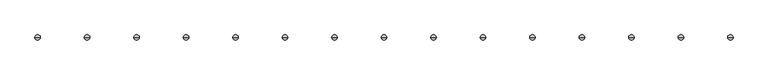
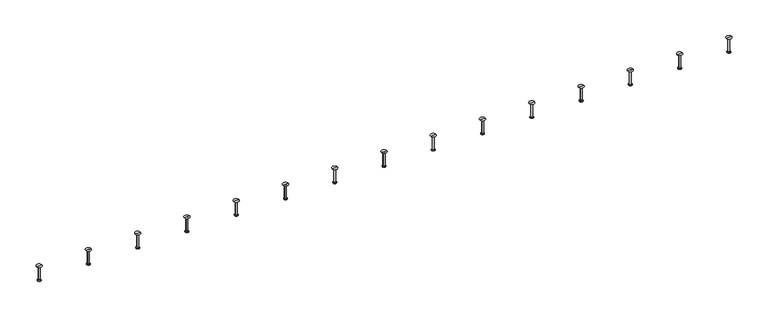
"""IFC4 building model written with IfcOpenShell, lengths in millimetres: fastener geometry, JTA-W JORDAHL® AnchorChannels : JTA-W L=6000 mm."""

from ifc_helpers import new_model, si_unit, frame, origin, place, context, project, spatial, polyline, circle_curve, source, transform, mapped, element, save
from ifc_brep_helpers import plane_surface, cylinder_surface, revolved_surface, advanced_brep


def fastener_dd962dd3(model_context):
    return source(origin(), model_context, "Body", "AdvancedBrep", [
        advanced_brep(
        [(3991.6666667, 0.0, -22.0), (4005.1666667, 0.0, -22.0), (3978.1666667, 0.0, -22.0), (3983.1666667, 0.0, -100.0), (4000.1666667, 0.0, -100.0), (3991.6666667, 0.0, -100.0), (3983.1666667, 0.0, -98.0), (4000.1666667, 0.0, -98.0), (3987.1666667, 0.0, -95.6905989), (3996.1666667, 0.0, -95.6905989), (3987.1666667, 0.0, -24.5), (3996.1666667, 0.0, -24.5)],
        [
            (0, 1),
            (1, 2, circle_curve(frame((3991.6666667, 0.0, -22.0), z_axis=(0.0, 0.0, 1.0), x_axis=(1.0, 0.0, 0.0)), 13.5)),
            (2, 0),
            (2, 1, circle_curve(frame((3991.6666667, 0.0, -22.0), z_axis=(0.0, 0.0, 1.0), x_axis=(1.0, 0.0, 0.0)), 13.5)),
            (3, 4, circle_curve(frame((3991.6666667, 0.0, -100.0), z_axis=(0.0, 0.0, -1.0), x_axis=(1.0, 0.0, 0.0)), 8.5)),
            (4, 5),
            (5, 3),
            (4, 3, circle_curve(frame((3991.6666667, 0.0, -100.0), z_axis=(0.0, 0.0, -1.0), x_axis=(1.0, 0.0, 0.0)), 8.5)),
            (6, 7, circle_curve(frame((3991.6666667, 0.0, -98.0), z_axis=(0.0, 0.0, -1.0), x_axis=(1.0, 0.0, 0.0)), 8.5)),
            (7, 4),
            (3, 6),
            (7, 6, circle_curve(frame((3991.6666667, 0.0, -98.0), z_axis=(0.0, 0.0, -1.0), x_axis=(1.0, 0.0, 0.0)), 8.5)),
            (8, 9, circle_curve(frame((3991.6666667, 0.0, -95.6905989), z_axis=(0.0, 0.0, -1.0), x_axis=(1.0, 0.0, 0.0)), 4.5)),
            (9, 7),
            (6, 8),
            (9, 8, circle_curve(frame((3991.6666667, 0.0, -95.6905989), z_axis=(0.0, 0.0, -1.0), x_axis=(1.0, 0.0, 0.0)), 4.5)),
            (10, 11, circle_curve(frame((3991.6666667, 0.0, -24.5), z_axis=(0.0, 0.0, -1.0), x_axis=(1.0, 0.0, 0.0)), 4.5)),
            (11, 9),
            (8, 10),
            (11, 10, circle_curve(frame((3991.6666667, 0.0, -24.5), z_axis=(0.0, 0.0, -1.0), x_axis=(1.0, 0.0, 0.0)), 4.5)),
            (1, 11),
            (10, 2),
        ],
        [
            plane_surface(frame((3991.6666667, 0.0, -22.0), z_axis=(0.0, 0.0, 1.0), x_axis=(1.0, 0.0, 0.0))),
            plane_surface(frame((3991.6666667, 0.0, -100.0), z_axis=(0.0, 0.0, -1.0), x_axis=(1.0, 0.0, 0.0))),
            cylinder_surface(frame((3991.6666667, 0.0, 2292.3150031), z_axis=(0.0, 0.0, 1.0), x_axis=(1.0, 0.0, 0.0)), 8.5),
            revolved_surface(polyline([(4000.1666667, 0.0, -98.0), (3996.1666667, 0.0, -95.6905989)]), (3991.6666667, 0.0, 2292.3150031), (0.0, 0.0, 1.0)),
            cylinder_surface(frame((3991.6666667, 0.0, 2292.3150031), z_axis=(0.0, 0.0, 1.0), x_axis=(1.0, 0.0, 0.0)), 4.5),
            revolved_surface(polyline([(3996.1666667, 0.0, -24.5), (4005.1666667, 0.0, -22.0)]), (3991.6666667, 0.0, 2292.3150031), (0.0, 0.0, 1.0)),
        ],
        [
            (0, [[1, 2, 3]]),
            (0, [[-3, 4, -1]]),
            (1, [[5, 6, 7]]),
            (1, [[8, -7, -6]]),
            (2, [[9, 10, -5, 11]]),
            (2, [[12, -11, -8, -10]]),
            (3, [[13, 14, -9, 15]]),
            (3, [[16, -15, -12, -14]]),
            (4, [[17, 18, -13, 19]]),
            (4, [[20, -19, -16, -18]]),
            (5, [[-2, 21, -17, 22]]),
            (5, [[-4, -22, -20, -21]]),
        ],
    ),
        advanced_brep(
        [(3743.75, 0.0, -22.0), (3757.25, 0.0, -22.0), (3730.25, 0.0, -22.0), (3735.25, 0.0, -100.0), (3752.25, 0.0, -100.0), (3743.75, 0.0, -100.0), (3735.25, 0.0, -98.0), (3752.25, 0.0, -98.0), (3739.25, 0.0, -95.6905989), (3748.25, 0.0, -95.6905989), (3739.25, 0.0, -24.5), (3748.25, 0.0, -24.5)],
        [
            (0, 1),
            (1, 2, circle_curve(frame((3743.75, 0.0, -22.0), z_axis=(0.0, 0.0, 1.0), x_axis=(1.0, 0.0, 0.0)), 13.5)),
            (2, 0),
            (2, 1, circle_curve(frame((3743.75, 0.0, -22.0), z_axis=(0.0, 0.0, 1.0), x_axis=(1.0, 0.0, 0.0)), 13.5)),
            (3, 4, circle_curve(frame((3743.75, 0.0, -100.0), z_axis=(0.0, 0.0, -1.0), x_axis=(1.0, 0.0, 0.0)), 8.5)),
            (4, 5),
            (5, 3),
            (4, 3, circle_curve(frame((3743.75, 0.0, -100.0), z_axis=(0.0, 0.0, -1.0), x_axis=(1.0, 0.0, 0.0)), 8.5)),
            (6, 7, circle_curve(frame((3743.75, 0.0, -98.0), z_axis=(0.0, 0.0, -1.0), x_axis=(1.0, 0.0, 0.0)), 8.5)),
            (7, 4),
            (3, 6),
            (7, 6, circle_curve(frame((3743.75, 0.0, -98.0), z_axis=(0.0, 0.0, -1.0), x_axis=(1.0, 0.0, 0.0)), 8.5)),
            (8, 9, circle_curve(frame((3743.75, 0.0, -95.6905989), z_axis=(0.0, 0.0, -1.0), x_axis=(1.0, 0.0, 0.0)), 4.5)),
            (9, 7),
            (6, 8),
            (9, 8, circle_curve(frame((3743.75, 0.0, -95.6905989), z_axis=(0.0, 0.0, -1.0), x_axis=(1.0, 0.0, 0.0)), 4.5)),
            (10, 11, circle_curve(frame((3743.75, 0.0, -24.5), z_axis=(0.0, 0.0, -1.0), x_axis=(1.0, 0.0, 0.0)), 4.5)),
            (11, 9),
            (8, 10),
            (11, 10, circle_curve(frame((3743.75, 0.0, -24.5), z_axis=(0.0, 0.0, -1.0), x_axis=(1.0, 0.0, 0.0)), 4.5)),
            (1, 11),
            (10, 2),
        ],
        [
            plane_surface(frame((3743.75, 0.0, -22.0), z_axis=(0.0, 0.0, 1.0), x_axis=(1.0, 0.0, 0.0))),
            plane_surface(frame((3743.75, 0.0, -100.0), z_axis=(0.0, 0.0, -1.0), x_axis=(1.0, 0.0, 0.0))),
            cylinder_surface(frame((3743.75, 0.0, 2292.3150031), z_axis=(0.0, 0.0, 1.0), x_axis=(1.0, 0.0, 0.0)), 8.5),
            revolved_surface(polyline([(3752.25, 0.0, -98.0), (3748.25, 0.0, -95.6905989)]), (3743.75, 0.0, 2292.3150031), (0.0, 0.0, 1.0)),
            cylinder_surface(frame((3743.75, 0.0, 2292.3150031), z_axis=(0.0, 0.0, 1.0), x_axis=(1.0, 0.0, 0.0)), 4.5),
            revolved_surface(polyline([(3748.25, 0.0, -24.5), (3757.25, 0.0, -22.0)]), (3743.75, 0.0, 2292.3150031), (0.0, 0.0, 1.0)),
        ],
        [
            (0, [[1, 2, 3]]),
            (0, [[-3, 4, -1]]),
            (1, [[5, 6, 7]]),
            (1, [[8, -7, -6]]),
            (2, [[9, 10, -5, 11]]),
            (2, [[12, -11, -8, -10]]),
            (3, [[13, 14, -9, 15]]),
            (3, [[16, -15, -12, -14]]),
            (4, [[17, 18, -13, 19]]),
            (4, [[20, -19, -16, -18]]),
            (5, [[-2, 21, -17, 22]]),
            (5, [[-4, -22, -20, -21]]),
        ],
    ),
        advanced_brep(
        [(3495.8333333, 0.0, -22.0), (3509.3333333, 0.0, -22.0), (3482.3333333, 0.0, -22.0), (3487.3333333, 0.0, -100.0), (3504.3333333, 0.0, -100.0), (3495.8333333, 0.0, -100.0), (3487.3333333, 0.0, -98.0), (3504.3333333, 0.0, -98.0), (3491.3333333, 0.0, -95.6905989), (3500.3333333, 0.0, -95.6905989), (3491.3333333, 0.0, -24.5), (3500.3333333, 0.0, -24.5)],
        [
            (0, 1),
            (1, 2, circle_curve(frame((3495.8333333, 0.0, -22.0), z_axis=(0.0, 0.0, 1.0), x_axis=(1.0, 0.0, 0.0)), 13.5)),
            (2, 0),
            (2, 1, circle_curve(frame((3495.8333333, 0.0, -22.0), z_axis=(0.0, 0.0, 1.0), x_axis=(1.0, 0.0, 0.0)), 13.5)),
            (3, 4, circle_curve(frame((3495.8333333, 0.0, -100.0), z_axis=(0.0, 0.0, -1.0), x_axis=(1.0, 0.0, 0.0)), 8.5)),
            (4, 5),
            (5, 3),
            (4, 3, circle_curve(frame((3495.8333333, 0.0, -100.0), z_axis=(0.0, 0.0, -1.0), x_axis=(1.0, 0.0, 0.0)), 8.5)),
            (6, 7, circle_curve(frame((3495.8333333, 0.0, -98.0), z_axis=(0.0, 0.0, -1.0), x_axis=(1.0, 0.0, 0.0)), 8.5)),
            (7, 4),
            (3, 6),
            (7, 6, circle_curve(frame((3495.8333333, 0.0, -98.0), z_axis=(0.0, 0.0, -1.0), x_axis=(1.0, 0.0, 0.0)), 8.5)),
            (8, 9, circle_curve(frame((3495.8333333, 0.0, -95.6905989), z_axis=(0.0, 0.0, -1.0), x_axis=(1.0, 0.0, 0.0)), 4.5)),
            (9, 7),
            (6, 8),
            (9, 8, circle_curve(frame((3495.8333333, 0.0, -95.6905989), z_axis=(0.0, 0.0, -1.0), x_axis=(1.0, 0.0, 0.0)), 4.5)),
            (10, 11, circle_curve(frame((3495.8333333, 0.0, -24.5), z_axis=(0.0, 0.0, -1.0), x_axis=(1.0, 0.0, 0.0)), 4.5)),
            (11, 9),
            (8, 10),
            (11, 10, circle_curve(frame((3495.8333333, 0.0, -24.5), z_axis=(0.0, 0.0, -1.0), x_axis=(1.0, 0.0, 0.0)), 4.5)),
            (1, 11),
            (10, 2),
        ],
        [
            plane_surface(frame((3495.8333333, 0.0, -22.0), z_axis=(0.0, 0.0, 1.0), x_axis=(1.0, 0.0, 0.0))),
            plane_surface(frame((3495.8333333, 0.0, -100.0), z_axis=(0.0, 0.0, -1.0), x_axis=(1.0, 0.0, 0.0))),
            cylinder_surface(frame((3495.8333333, 0.0, 2292.3150031), z_axis=(0.0, 0.0, 1.0), x_axis=(1.0, 0.0, 0.0)), 8.5),
            revolved_surface(polyline([(3504.3333333, 0.0, -98.0), (3500.3333333, 0.0, -95.6905989)]), (3495.8333333, 0.0, 2292.3150031), (0.0, 0.0, 1.0)),
            cylinder_surface(frame((3495.8333333, 0.0, 2292.3150031), z_axis=(0.0, 0.0, 1.0), x_axis=(1.0, 0.0, 0.0)), 4.5),
            revolved_surface(polyline([(3500.3333333, 0.0, -24.5), (3509.3333333, 0.0, -22.0)]), (3495.8333333, 0.0, 2292.3150031), (0.0, 0.0, 1.0)),
        ],
        [
            (0, [[1, 2, 3]]),
            (0, [[-3, 4, -1]]),
            (1, [[5, 6, 7]]),
            (1, [[8, -7, -6]]),
            (2, [[9, 10, -5, 11]]),
            (2, [[12, -11, -8, -10]]),
            (3, [[13, 14, -9, 15]]),
            (3, [[16, -15, -12, -14]]),
            (4, [[17, 18, -13, 19]]),
            (4, [[20, -19, -16, -18]]),
            (5, [[-2, 21, -17, 22]]),
            (5, [[-4, -22, -20, -21]]),
        ],
    ),
        advanced_brep(
        [(3247.9166667, 0.0, -22.0), (3261.4166667, 0.0, -22.0), (3234.4166667, 0.0, -22.0), (3239.4166667, 0.0, -100.0), (3256.4166667, 0.0, -100.0), (3247.9166667, 0.0, -100.0), (3239.4166667, 0.0, -98.0), (3256.4166667, 0.0, -98.0), (3243.4166667, 0.0, -95.6905989), (3252.4166667, 0.0, -95.6905989), (3243.4166667, 0.0, -24.5), (3252.4166667, 0.0, -24.5)],
        [
            (0, 1),
            (1, 2, circle_curve(frame((3247.9166667, 0.0, -22.0), z_axis=(0.0, 0.0, 1.0), x_axis=(1.0, 0.0, 0.0)), 13.5)),
            (2, 0),
            (2, 1, circle_curve(frame((3247.9166667, 0.0, -22.0), z_axis=(0.0, 0.0, 1.0), x_axis=(1.0, 0.0, 0.0)), 13.5)),
            (3, 4, circle_curve(frame((3247.9166667, 0.0, -100.0), z_axis=(0.0, 0.0, -1.0), x_axis=(1.0, 0.0, 0.0)), 8.5)),
            (4, 5),
            (5, 3),
            (4, 3, circle_curve(frame((3247.9166667, 0.0, -100.0), z_axis=(0.0, 0.0, -1.0), x_axis=(1.0, 0.0, 0.0)), 8.5)),
            (6, 7, circle_curve(frame((3247.9166667, 0.0, -98.0), z_axis=(0.0, 0.0, -1.0), x_axis=(1.0, 0.0, 0.0)), 8.5)),
            (7, 4),
            (3, 6),
            (7, 6, circle_curve(frame((3247.9166667, 0.0, -98.0), z_axis=(0.0, 0.0, -1.0), x_axis=(1.0, 0.0, 0.0)), 8.5)),
            (8, 9, circle_curve(frame((3247.9166667, 0.0, -95.6905989), z_axis=(0.0, 0.0, -1.0), x_axis=(1.0, 0.0, 0.0)), 4.5)),
            (9, 7),
            (6, 8),
            (9, 8, circle_curve(frame((3247.9166667, 0.0, -95.6905989), z_axis=(0.0, 0.0, -1.0), x_axis=(1.0, 0.0, 0.0)), 4.5)),
            (10, 11, circle_curve(frame((3247.9166667, 0.0, -24.5), z_axis=(0.0, 0.0, -1.0), x_axis=(1.0, 0.0, 0.0)), 4.5)),
            (11, 9),
            (8, 10),
            (11, 10, circle_curve(frame((3247.9166667, 0.0, -24.5), z_axis=(0.0, 0.0, -1.0), x_axis=(1.0, 0.0, 0.0)), 4.5)),
            (1, 11),
            (10, 2),
        ],
        [
            plane_surface(frame((3247.9166667, 0.0, -22.0), z_axis=(0.0, 0.0, 1.0), x_axis=(1.0, 0.0, 0.0))),
            plane_surface(frame((3247.9166667, 0.0, -100.0), z_axis=(0.0, 0.0, -1.0), x_axis=(1.0, 0.0, 0.0))),
            cylinder_surface(frame((3247.9166667, 0.0, 2292.3150031), z_axis=(0.0, 0.0, 1.0), x_axis=(1.0, 0.0, 0.0)), 8.5),
            revolved_surface(polyline([(3256.4166667, 0.0, -98.0), (3252.4166667, 0.0, -95.6905989)]), (3247.9166667, 0.0, 2292.3150031), (0.0, 0.0, 1.0)),
            cylinder_surface(frame((3247.9166667, 0.0, 2292.3150031), z_axis=(0.0, 0.0, 1.0), x_axis=(1.0, 0.0, 0.0)), 4.5),
            revolved_surface(polyline([(3252.4166667, 0.0, -24.5), (3261.4166667, 0.0, -22.0)]), (3247.9166667, 0.0, 2292.3150031), (0.0, 0.0, 1.0)),
        ],
        [
            (0, [[1, 2, 3]]),
            (0, [[-3, 4, -1]]),
            (1, [[5, 6, 7]]),
            (1, [[8, -7, -6]]),
            (2, [[9, 10, -5, 11]]),
            (2, [[12, -11, -8, -10]]),
            (3, [[13, 14, -9, 15]]),
            (3, [[16, -15, -12, -14]]),
            (4, [[17, 18, -13, 19]]),
            (4, [[20, -19, -16, -18]]),
            (5, [[-2, 21, -17, 22]]),
            (5, [[-4, -22, -20, -21]]),
        ],
    ),
        advanced_brep(
        [(3000.0, 0.0, -22.0), (3013.5, 0.0, -22.0), (2986.5, 0.0, -22.0), (2991.5, 0.0, -100.0), (3008.5, 0.0, -100.0), (3000.0, 0.0, -100.0), (2991.5, 0.0, -98.0), (3008.5, 0.0, -98.0), (2995.5, 0.0, -95.6905989), (3004.5, 0.0, -95.6905989), (2995.5, 0.0, -24.5), (3004.5, 0.0, -24.5)],
        [
            (0, 1),
            (1, 2, circle_curve(frame((3000.0, 0.0, -22.0), z_axis=(0.0, 0.0, 1.0), x_axis=(1.0, 0.0, 0.0)), 13.5)),
            (2, 0),
            (2, 1, circle_curve(frame((3000.0, 0.0, -22.0), z_axis=(0.0, 0.0, 1.0), x_axis=(1.0, 0.0, 0.0)), 13.5)),
            (3, 4, circle_curve(frame((3000.0, 0.0, -100.0), z_axis=(0.0, 0.0, -1.0), x_axis=(1.0, 0.0, 0.0)), 8.5)),
            (4, 5),
            (5, 3),
            (4, 3, circle_curve(frame((3000.0, 0.0, -100.0), z_axis=(0.0, 0.0, -1.0), x_axis=(1.0, 0.0, 0.0)), 8.5)),
            (6, 7, circle_curve(frame((3000.0, 0.0, -98.0), z_axis=(0.0, 0.0, -1.0), x_axis=(1.0, 0.0, 0.0)), 8.5)),
            (7, 4),
            (3, 6),
            (7, 6, circle_curve(frame((3000.0, 0.0, -98.0), z_axis=(0.0, 0.0, -1.0), x_axis=(1.0, 0.0, 0.0)), 8.5)),
            (8, 9, circle_curve(frame((3000.0, 0.0, -95.6905989), z_axis=(0.0, 0.0, -1.0), x_axis=(1.0, 0.0, 0.0)), 4.5)),
            (9, 7),
            (6, 8),
            (9, 8, circle_curve(frame((3000.0, 0.0, -95.6905989), z_axis=(0.0, 0.0, -1.0), x_axis=(1.0, 0.0, 0.0)), 4.5)),
            (10, 11, circle_curve(frame((3000.0, 0.0, -24.5), z_axis=(0.0, 0.0, -1.0), x_axis=(1.0, 0.0, 0.0)), 4.5)),
            (11, 9),
            (8, 10),
            (11, 10, circle_curve(frame((3000.0, 0.0, -24.5), z_axis=(0.0, 0.0, -1.0), x_axis=(1.0, 0.0, 0.0)), 4.5)),
            (1, 11),
            (10, 2),
        ],
        [
            plane_surface(frame((3000.0, 0.0, -22.0), z_axis=(0.0, 0.0, 1.0), x_axis=(1.0, 0.0, 0.0))),
            plane_surface(frame((3000.0, 0.0, -100.0), z_axis=(0.0, 0.0, -1.0), x_axis=(1.0, 0.0, 0.0))),
            cylinder_surface(frame((3000.0, 0.0, 2292.3150031), z_axis=(0.0, 0.0, 1.0), x_axis=(1.0, 0.0, 0.0)), 8.5),
            revolved_surface(polyline([(3008.5, 0.0, -98.0), (3004.5, 0.0, -95.6905989)]), (3000.0, 0.0, 2292.3150031), (0.0, 0.0, 1.0)),
            cylinder_surface(frame((3000.0, 0.0, 2292.3150031), z_axis=(0.0, 0.0, 1.0), x_axis=(1.0, 0.0, 0.0)), 4.5),
            revolved_surface(polyline([(3004.5, 0.0, -24.5), (3013.5, 0.0, -22.0)]), (3000.0, 0.0, 2292.3150031), (0.0, 0.0, 1.0)),
        ],
        [
            (0, [[1, 2, 3]]),
            (0, [[-3, 4, -1]]),
            (1, [[5, 6, 7]]),
            (1, [[8, -7, -6]]),
            (2, [[9, 10, -5, 11]]),
            (2, [[12, -11, -8, -10]]),
            (3, [[13, 14, -9, 15]]),
            (3, [[16, -15, -12, -14]]),
            (4, [[17, 18, -13, 19]]),
            (4, [[20, -19, -16, -18]]),
            (5, [[-2, 21, -17, 22]]),
            (5, [[-4, -22, -20, -21]]),
        ],
    ),
        advanced_brep(
        [(2752.0833333, 0.0, -22.0), (2765.5833333, 0.0, -22.0), (2738.5833333, 0.0, -22.0), (2743.5833333, 0.0, -100.0), (2760.5833333, 0.0, -100.0), (2752.0833333, 0.0, -100.0), (2743.5833333, 0.0, -98.0), (2760.5833333, 0.0, -98.0), (2747.5833333, 0.0, -95.6905989), (2756.5833333, 0.0, -95.6905989), (2747.5833333, 0.0, -24.5), (2756.5833333, 0.0, -24.5)],
        [
            (0, 1),
            (1, 2, circle_curve(frame((2752.0833333, 0.0, -22.0), z_axis=(0.0, 0.0, 1.0), x_axis=(1.0, 0.0, 0.0)), 13.5)),
            (2, 0),
            (2, 1, circle_curve(frame((2752.0833333, 0.0, -22.0), z_axis=(0.0, 0.0, 1.0), x_axis=(1.0, 0.0, 0.0)), 13.5)),
            (3, 4, circle_curve(frame((2752.0833333, 0.0, -100.0), z_axis=(0.0, 0.0, -1.0), x_axis=(1.0, 0.0, 0.0)), 8.5)),
            (4, 5),
            (5, 3),
            (4, 3, circle_curve(frame((2752.0833333, 0.0, -100.0), z_axis=(0.0, 0.0, -1.0), x_axis=(1.0, 0.0, 0.0)), 8.5)),
            (6, 7, circle_curve(frame((2752.0833333, 0.0, -98.0), z_axis=(0.0, 0.0, -1.0), x_axis=(1.0, 0.0, 0.0)), 8.5)),
            (7, 4),
            (3, 6),
            (7, 6, circle_curve(frame((2752.0833333, 0.0, -98.0), z_axis=(0.0, 0.0, -1.0), x_axis=(1.0, 0.0, 0.0)), 8.5)),
            (8, 9, circle_curve(frame((2752.0833333, 0.0, -95.6905989), z_axis=(0.0, 0.0, -1.0), x_axis=(1.0, 0.0, 0.0)), 4.5)),
            (9, 7),
            (6, 8),
            (9, 8, circle_curve(frame((2752.0833333, 0.0, -95.6905989), z_axis=(0.0, 0.0, -1.0), x_axis=(1.0, 0.0, 0.0)), 4.5)),
            (10, 11, circle_curve(frame((2752.0833333, 0.0, -24.5), z_axis=(0.0, 0.0, -1.0), x_axis=(1.0, 0.0, 0.0)), 4.5)),
            (11, 9),
            (8, 10),
            (11, 10, circle_curve(frame((2752.0833333, 0.0, -24.5), z_axis=(0.0, 0.0, -1.0), x_axis=(1.0, 0.0, 0.0)), 4.5)),
            (1, 11),
            (10, 2),
        ],
        [
            plane_surface(frame((2752.0833333, 0.0, -22.0), z_axis=(0.0, 0.0, 1.0), x_axis=(1.0, 0.0, 0.0))),
            plane_surface(frame((2752.0833333, 0.0, -100.0), z_axis=(0.0, 0.0, -1.0), x_axis=(1.0, 0.0, 0.0))),
            cylinder_surface(frame((2752.0833333, 0.0, 2292.3150031), z_axis=(0.0, 0.0, 1.0), x_axis=(1.0, 0.0, 0.0)), 8.5),
            revolved_surface(polyline([(2760.5833333, 0.0, -98.0), (2756.5833333, 0.0, -95.6905989)]), (2752.0833333, 0.0, 2292.3150031), (0.0, 0.0, 1.0)),
            cylinder_surface(frame((2752.0833333, 0.0, 2292.3150031), z_axis=(0.0, 0.0, 1.0), x_axis=(1.0, 0.0, 0.0)), 4.5),
            revolved_surface(polyline([(2756.5833333, 0.0, -24.5), (2765.5833333, 0.0, -22.0)]), (2752.0833333, 0.0, 2292.3150031), (0.0, 0.0, 1.0)),
        ],
        [
            (0, [[1, 2, 3]]),
            (0, [[-3, 4, -1]]),
            (1, [[5, 6, 7]]),
            (1, [[8, -7, -6]]),
            (2, [[9, 10, -5, 11]]),
            (2, [[12, -11, -8, -10]]),
            (3, [[13, 14, -9, 15]]),
            (3, [[16, -15, -12, -14]]),
            (4, [[17, 18, -13, 19]]),
            (4, [[20, -19, -16, -18]]),
            (5, [[-2, 21, -17, 22]]),
            (5, [[-4, -22, -20, -21]]),
        ],
    ),
        advanced_brep(
        [(2504.1666667, 0.0, -22.0), (2517.6666667, 0.0, -22.0), (2490.6666667, 0.0, -22.0), (2495.6666667, 0.0, -100.0), (2512.6666667, 0.0, -100.0), (2504.1666667, 0.0, -100.0), (2495.6666667, 0.0, -98.0), (2512.6666667, 0.0, -98.0), (2499.6666667, 0.0, -95.6905989), (2508.6666667, 0.0, -95.6905989), (2499.6666667, 0.0, -24.5), (2508.6666667, 0.0, -24.5)],
        [
            (0, 1),
            (1, 2, circle_curve(frame((2504.1666667, 0.0, -22.0), z_axis=(0.0, 0.0, 1.0), x_axis=(1.0, 0.0, 0.0)), 13.5)),
            (2, 0),
            (2, 1, circle_curve(frame((2504.1666667, 0.0, -22.0), z_axis=(0.0, 0.0, 1.0), x_axis=(1.0, 0.0, 0.0)), 13.5)),
            (3, 4, circle_curve(frame((2504.1666667, 0.0, -100.0), z_axis=(0.0, 0.0, -1.0), x_axis=(1.0, 0.0, 0.0)), 8.5)),
            (4, 5),
            (5, 3),
            (4, 3, circle_curve(frame((2504.1666667, 0.0, -100.0), z_axis=(0.0, 0.0, -1.0), x_axis=(1.0, 0.0, 0.0)), 8.5)),
            (6, 7, circle_curve(frame((2504.1666667, 0.0, -98.0), z_axis=(0.0, 0.0, -1.0), x_axis=(1.0, 0.0, 0.0)), 8.5)),
            (7, 4),
            (3, 6),
            (7, 6, circle_curve(frame((2504.1666667, 0.0, -98.0), z_axis=(0.0, 0.0, -1.0), x_axis=(1.0, 0.0, 0.0)), 8.5)),
            (8, 9, circle_curve(frame((2504.1666667, 0.0, -95.6905989), z_axis=(0.0, 0.0, -1.0), x_axis=(1.0, 0.0, 0.0)), 4.5)),
            (9, 7),
            (6, 8),
            (9, 8, circle_curve(frame((2504.1666667, 0.0, -95.6905989), z_axis=(0.0, 0.0, -1.0), x_axis=(1.0, 0.0, 0.0)), 4.5)),
            (10, 11, circle_curve(frame((2504.1666667, 0.0, -24.5), z_axis=(0.0, 0.0, -1.0), x_axis=(1.0, 0.0, 0.0)), 4.5)),
            (11, 9),
            (8, 10),
            (11, 10, circle_curve(frame((2504.1666667, 0.0, -24.5), z_axis=(0.0, 0.0, -1.0), x_axis=(1.0, 0.0, 0.0)), 4.5)),
            (1, 11),
            (10, 2),
        ],
        [
            plane_surface(frame((2504.1666667, 0.0, -22.0), z_axis=(0.0, 0.0, 1.0), x_axis=(1.0, 0.0, 0.0))),
            plane_surface(frame((2504.1666667, 0.0, -100.0), z_axis=(0.0, 0.0, -1.0), x_axis=(1.0, 0.0, 0.0))),
            cylinder_surface(frame((2504.1666667, 0.0, 2292.3150031), z_axis=(0.0, 0.0, 1.0), x_axis=(1.0, 0.0, 0.0)), 8.5),
            revolved_surface(polyline([(2512.6666667, 0.0, -98.0), (2508.6666667, 0.0, -95.6905989)]), (2504.1666667, 0.0, 2292.3150031), (0.0, 0.0, 1.0)),
            cylinder_surface(frame((2504.1666667, 0.0, 2292.3150031), z_axis=(0.0, 0.0, 1.0), x_axis=(1.0, 0.0, 0.0)), 4.5),
            revolved_surface(polyline([(2508.6666667, 0.0, -24.5), (2517.6666667, 0.0, -22.0)]), (2504.1666667, 0.0, 2292.3150031), (0.0, 0.0, 1.0)),
        ],
        [
            (0, [[1, 2, 3]]),
            (0, [[-3, 4, -1]]),
            (1, [[5, 6, 7]]),
            (1, [[8, -7, -6]]),
            (2, [[9, 10, -5, 11]]),
            (2, [[12, -11, -8, -10]]),
            (3, [[13, 14, -9, 15]]),
            (3, [[16, -15, -12, -14]]),
            (4, [[17, 18, -13, 19]]),
            (4, [[20, -19, -16, -18]]),
            (5, [[-2, 21, -17, 22]]),
            (5, [[-4, -22, -20, -21]]),
        ],
    ),
        advanced_brep(
        [(2256.25, 0.0, -22.0), (2269.75, 0.0, -22.0), (2242.75, 0.0, -22.0), (2247.75, 0.0, -100.0), (2264.75, 0.0, -100.0), (2256.25, 0.0, -100.0), (2247.75, 0.0, -98.0), (2264.75, 0.0, -98.0), (2251.75, 0.0, -95.6905989), (2260.75, 0.0, -95.6905989), (2251.75, 0.0, -24.5), (2260.75, 0.0, -24.5)],
        [
            (0, 1),
            (1, 2, circle_curve(frame((2256.25, 0.0, -22.0), z_axis=(0.0, 0.0, 1.0), x_axis=(1.0, 0.0, 0.0)), 13.5)),
            (2, 0),
            (2, 1, circle_curve(frame((2256.25, 0.0, -22.0), z_axis=(0.0, 0.0, 1.0), x_axis=(1.0, 0.0, 0.0)), 13.5)),
            (3, 4, circle_curve(frame((2256.25, 0.0, -100.0), z_axis=(0.0, 0.0, -1.0), x_axis=(1.0, 0.0, 0.0)), 8.5)),
            (4, 5),
            (5, 3),
            (4, 3, circle_curve(frame((2256.25, 0.0, -100.0), z_axis=(0.0, 0.0, -1.0), x_axis=(1.0, 0.0, 0.0)), 8.5)),
            (6, 7, circle_curve(frame((2256.25, 0.0, -98.0), z_axis=(0.0, 0.0, -1.0), x_axis=(1.0, 0.0, 0.0)), 8.5)),
            (7, 4),
            (3, 6),
            (7, 6, circle_curve(frame((2256.25, 0.0, -98.0), z_axis=(0.0, 0.0, -1.0), x_axis=(1.0, 0.0, 0.0)), 8.5)),
            (8, 9, circle_curve(frame((2256.25, 0.0, -95.6905989), z_axis=(0.0, 0.0, -1.0), x_axis=(1.0, 0.0, 0.0)), 4.5)),
            (9, 7),
            (6, 8),
            (9, 8, circle_curve(frame((2256.25, 0.0, -95.6905989), z_axis=(0.0, 0.0, -1.0), x_axis=(1.0, 0.0, 0.0)), 4.5)),
            (10, 11, circle_curve(frame((2256.25, 0.0, -24.5), z_axis=(0.0, 0.0, -1.0), x_axis=(1.0, 0.0, 0.0)), 4.5)),
            (11, 9),
            (8, 10),
            (11, 10, circle_curve(frame((2256.25, 0.0, -24.5), z_axis=(0.0, 0.0, -1.0), x_axis=(1.0, 0.0, 0.0)), 4.5)),
            (1, 11),
            (10, 2),
        ],
        [
            plane_surface(frame((2256.25, 0.0, -22.0), z_axis=(0.0, 0.0, 1.0), x_axis=(1.0, 0.0, 0.0))),
            plane_surface(frame((2256.25, 0.0, -100.0), z_axis=(0.0, 0.0, -1.0), x_axis=(1.0, 0.0, 0.0))),
            cylinder_surface(frame((2256.25, 0.0, 2292.3150031), z_axis=(0.0, 0.0, 1.0), x_axis=(1.0, 0.0, 0.0)), 8.5),
            revolved_surface(polyline([(2264.75, 0.0, -98.0), (2260.75, 0.0, -95.6905989)]), (2256.25, 0.0, 2292.3150031), (0.0, 0.0, 1.0)),
            cylinder_surface(frame((2256.25, 0.0, 2292.3150031), z_axis=(0.0, 0.0, 1.0), x_axis=(1.0, 0.0, 0.0)), 4.5),
            revolved_surface(polyline([(2260.75, 0.0, -24.5), (2269.75, 0.0, -22.0)]), (2256.25, 0.0, 2292.3150031), (0.0, 0.0, 1.0)),
        ],
        [
            (0, [[1, 2, 3]]),
            (0, [[-3, 4, -1]]),
            (1, [[5, 6, 7]]),
            (1, [[8, -7, -6]]),
            (2, [[9, 10, -5, 11]]),
            (2, [[12, -11, -8, -10]]),
            (3, [[13, 14, -9, 15]]),
            (3, [[16, -15, -12, -14]]),
            (4, [[17, 18, -13, 19]]),
            (4, [[20, -19, -16, -18]]),
            (5, [[-2, 21, -17, 22]]),
            (5, [[-4, -22, -20, -21]]),
        ],
    ),
        advanced_brep(
        [(2008.3333333, 0.0, -22.0), (2021.8333333, 0.0, -22.0), (1994.8333333, 0.0, -22.0), (1999.8333333, 0.0, -100.0), (2016.8333333, 0.0, -100.0), (2008.3333333, 0.0, -100.0), (1999.8333333, 0.0, -98.0), (2016.8333333, 0.0, -98.0), (2003.8333333, 0.0, -95.6905989), (2012.8333333, 0.0, -95.6905989), (2003.8333333, 0.0, -24.5), (2012.8333333, 0.0, -24.5)],
        [
            (0, 1),
            (1, 2, circle_curve(frame((2008.3333333, 0.0, -22.0), z_axis=(0.0, 0.0, 1.0), x_axis=(1.0, 0.0, 0.0)), 13.5)),
            (2, 0),
            (2, 1, circle_curve(frame((2008.3333333, 0.0, -22.0), z_axis=(0.0, 0.0, 1.0), x_axis=(1.0, 0.0, 0.0)), 13.5)),
            (3, 4, circle_curve(frame((2008.3333333, 0.0, -100.0), z_axis=(0.0, 0.0, -1.0), x_axis=(1.0, 0.0, 0.0)), 8.5)),
            (4, 5),
            (5, 3),
            (4, 3, circle_curve(frame((2008.3333333, 0.0, -100.0), z_axis=(0.0, 0.0, -1.0), x_axis=(1.0, 0.0, 0.0)), 8.5)),
            (6, 7, circle_curve(frame((2008.3333333, 0.0, -98.0), z_axis=(0.0, 0.0, -1.0), x_axis=(1.0, 0.0, 0.0)), 8.5)),
            (7, 4),
            (3, 6),
            (7, 6, circle_curve(frame((2008.3333333, 0.0, -98.0), z_axis=(0.0, 0.0, -1.0), x_axis=(1.0, 0.0, 0.0)), 8.5)),
            (8, 9, circle_curve(frame((2008.3333333, 0.0, -95.6905989), z_axis=(0.0, 0.0, -1.0), x_axis=(1.0, 0.0, 0.0)), 4.5)),
            (9, 7),
            (6, 8),
            (9, 8, circle_curve(frame((2008.3333333, 0.0, -95.6905989), z_axis=(0.0, 0.0, -1.0), x_axis=(1.0, 0.0, 0.0)), 4.5)),
            (10, 11, circle_curve(frame((2008.3333333, 0.0, -24.5), z_axis=(0.0, 0.0, -1.0), x_axis=(1.0, 0.0, 0.0)), 4.5)),
            (11, 9),
            (8, 10),
            (11, 10, circle_curve(frame((2008.3333333, 0.0, -24.5), z_axis=(0.0, 0.0, -1.0), x_axis=(1.0, 0.0, 0.0)), 4.5)),
            (1, 11),
            (10, 2),
        ],
        [
            plane_surface(frame((2008.3333333, 0.0, -22.0), z_axis=(0.0, 0.0, 1.0), x_axis=(1.0, 0.0, 0.0))),
            plane_surface(frame((2008.3333333, 0.0, -100.0), z_axis=(0.0, 0.0, -1.0), x_axis=(1.0, 0.0, 0.0))),
            cylinder_surface(frame((2008.3333333, 0.0, 2292.3150031), z_axis=(0.0, 0.0, 1.0), x_axis=(1.0, 0.0, 0.0)), 8.5),
            revolved_surface(polyline([(2016.8333333, 0.0, -98.0), (2012.8333333, 0.0, -95.6905989)]), (2008.3333333, 0.0, 2292.3150031), (0.0, 0.0, 1.0)),
            cylinder_surface(frame((2008.3333333, 0.0, 2292.3150031), z_axis=(0.0, 0.0, 1.0), x_axis=(1.0, 0.0, 0.0)), 4.5),
            revolved_surface(polyline([(2012.8333333, 0.0, -24.5), (2021.8333333, 0.0, -22.0)]), (2008.3333333, 0.0, 2292.3150031), (0.0, 0.0, 1.0)),
        ],
        [
            (0, [[1, 2, 3]]),
            (0, [[-3, 4, -1]]),
            (1, [[5, 6, 7]]),
            (1, [[8, -7, -6]]),
            (2, [[9, 10, -5, 11]]),
            (2, [[12, -11, -8, -10]]),
            (3, [[13, 14, -9, 15]]),
            (3, [[16, -15, -12, -14]]),
            (4, [[17, 18, -13, 19]]),
            (4, [[20, -19, -16, -18]]),
            (5, [[-2, 21, -17, 22]]),
            (5, [[-4, -22, -20, -21]]),
        ],
    ),
        advanced_brep(
        [(1760.4166667, 0.0, -22.0), (1773.9166667, 0.0, -22.0), (1746.9166667, 0.0, -22.0), (1751.9166667, 0.0, -100.0), (1768.9166667, 0.0, -100.0), (1760.4166667, 0.0, -100.0), (1751.9166667, 0.0, -98.0), (1768.9166667, 0.0, -98.0), (1755.9166667, 0.0, -95.6905989), (1764.9166667, 0.0, -95.6905989), (1755.9166667, 0.0, -24.5), (1764.9166667, 0.0, -24.5)],
        [
            (0, 1),
            (1, 2, circle_curve(frame((1760.4166667, 0.0, -22.0), z_axis=(0.0, 0.0, 1.0), x_axis=(1.0, 0.0, 0.0)), 13.5)),
            (2, 0),
            (2, 1, circle_curve(frame((1760.4166667, 0.0, -22.0), z_axis=(0.0, 0.0, 1.0), x_axis=(1.0, 0.0, 0.0)), 13.5)),
            (3, 4, circle_curve(frame((1760.4166667, 0.0, -100.0), z_axis=(0.0, 0.0, -1.0), x_axis=(1.0, 0.0, 0.0)), 8.5)),
            (4, 5),
            (5, 3),
            (4, 3, circle_curve(frame((1760.4166667, 0.0, -100.0), z_axis=(0.0, 0.0, -1.0), x_axis=(1.0, 0.0, 0.0)), 8.5)),
            (6, 7, circle_curve(frame((1760.4166667, 0.0, -98.0), z_axis=(0.0, 0.0, -1.0), x_axis=(1.0, 0.0, 0.0)), 8.5)),
            (7, 4),
            (3, 6),
            (7, 6, circle_curve(frame((1760.4166667, 0.0, -98.0), z_axis=(0.0, 0.0, -1.0), x_axis=(1.0, 0.0, 0.0)), 8.5)),
            (8, 9, circle_curve(frame((1760.4166667, 0.0, -95.6905989), z_axis=(0.0, 0.0, -1.0), x_axis=(1.0, 0.0, 0.0)), 4.5)),
            (9, 7),
            (6, 8),
            (9, 8, circle_curve(frame((1760.4166667, 0.0, -95.6905989), z_axis=(0.0, 0.0, -1.0), x_axis=(1.0, 0.0, 0.0)), 4.5)),
            (10, 11, circle_curve(frame((1760.4166667, 0.0, -24.5), z_axis=(0.0, 0.0, -1.0), x_axis=(1.0, 0.0, 0.0)), 4.5)),
            (11, 9),
            (8, 10),
            (11, 10, circle_curve(frame((1760.4166667, 0.0, -24.5), z_axis=(0.0, 0.0, -1.0), x_axis=(1.0, 0.0, 0.0)), 4.5)),
            (1, 11),
            (10, 2),
        ],
        [
            plane_surface(frame((1760.4166667, 0.0, -22.0), z_axis=(0.0, 0.0, 1.0), x_axis=(1.0, 0.0, 0.0))),
            plane_surface(frame((1760.4166667, 0.0, -100.0), z_axis=(0.0, 0.0, -1.0), x_axis=(1.0, 0.0, 0.0))),
            cylinder_surface(frame((1760.4166667, 0.0, 2292.3150031), z_axis=(0.0, 0.0, 1.0), x_axis=(1.0, 0.0, 0.0)), 8.5),
            revolved_surface(polyline([(1768.9166667, 0.0, -98.0), (1764.9166667, 0.0, -95.6905989)]), (1760.4166667, 0.0, 2292.3150031), (0.0, 0.0, 1.0)),
            cylinder_surface(frame((1760.4166667, 0.0, 2292.3150031), z_axis=(0.0, 0.0, 1.0), x_axis=(1.0, 0.0, 0.0)), 4.5),
            revolved_surface(polyline([(1764.9166667, 0.0, -24.5), (1773.9166667, 0.0, -22.0)]), (1760.4166667, 0.0, 2292.3150031), (0.0, 0.0, 1.0)),
        ],
        [
            (0, [[1, 2, 3]]),
            (0, [[-3, 4, -1]]),
            (1, [[5, 6, 7]]),
            (1, [[8, -7, -6]]),
            (2, [[9, 10, -5, 11]]),
            (2, [[12, -11, -8, -10]]),
            (3, [[13, 14, -9, 15]]),
            (3, [[16, -15, -12, -14]]),
            (4, [[17, 18, -13, 19]]),
            (4, [[20, -19, -16, -18]]),
            (5, [[-2, 21, -17, 22]]),
            (5, [[-4, -22, -20, -21]]),
        ],
    ),
        advanced_brep(
        [(1512.5, 0.0, -22.0), (1526.0, 0.0, -22.0), (1499.0, 0.0, -22.0), (1504.0, 0.0, -100.0), (1521.0, 0.0, -100.0), (1512.5, 0.0, -100.0), (1504.0, 0.0, -98.0), (1521.0, 0.0, -98.0), (1508.0, 0.0, -95.6905989), (1517.0, 0.0, -95.6905989), (1508.0, 0.0, -24.5), (1517.0, 0.0, -24.5)],
        [
            (0, 1),
            (1, 2, circle_curve(frame((1512.5, 0.0, -22.0), z_axis=(0.0, 0.0, 1.0), x_axis=(1.0, 0.0, 0.0)), 13.5)),
            (2, 0),
            (2, 1, circle_curve(frame((1512.5, 0.0, -22.0), z_axis=(0.0, 0.0, 1.0), x_axis=(1.0, 0.0, 0.0)), 13.5)),
            (3, 4, circle_curve(frame((1512.5, 0.0, -100.0), z_axis=(0.0, 0.0, -1.0), x_axis=(1.0, 0.0, 0.0)), 8.5)),
            (4, 5),
            (5, 3),
            (4, 3, circle_curve(frame((1512.5, 0.0, -100.0), z_axis=(0.0, 0.0, -1.0), x_axis=(1.0, 0.0, 0.0)), 8.5)),
            (6, 7, circle_curve(frame((1512.5, 0.0, -98.0), z_axis=(0.0, 0.0, -1.0), x_axis=(1.0, 0.0, 0.0)), 8.5)),
            (7, 4),
            (3, 6),
            (7, 6, circle_curve(frame((1512.5, 0.0, -98.0), z_axis=(0.0, 0.0, -1.0), x_axis=(1.0, 0.0, 0.0)), 8.5)),
            (8, 9, circle_curve(frame((1512.5, 0.0, -95.6905989), z_axis=(0.0, 0.0, -1.0), x_axis=(1.0, 0.0, 0.0)), 4.5)),
            (9, 7),
            (6, 8),
            (9, 8, circle_curve(frame((1512.5, 0.0, -95.6905989), z_axis=(0.0, 0.0, -1.0), x_axis=(1.0, 0.0, 0.0)), 4.5)),
            (10, 11, circle_curve(frame((1512.5, 0.0, -24.5), z_axis=(0.0, 0.0, -1.0), x_axis=(1.0, 0.0, 0.0)), 4.5)),
            (11, 9),
            (8, 10),
            (11, 10, circle_curve(frame((1512.5, 0.0, -24.5), z_axis=(0.0, 0.0, -1.0), x_axis=(1.0, 0.0, 0.0)), 4.5)),
            (1, 11),
            (10, 2),
        ],
        [
            plane_surface(frame((1512.5, 0.0, -22.0), z_axis=(0.0, 0.0, 1.0), x_axis=(1.0, 0.0, 0.0))),
            plane_surface(frame((1512.5, 0.0, -100.0), z_axis=(0.0, 0.0, -1.0), x_axis=(1.0, 0.0, 0.0))),
            cylinder_surface(frame((1512.5, 0.0, 2292.3150031), z_axis=(0.0, 0.0, 1.0), x_axis=(1.0, 0.0, 0.0)), 8.5),
            revolved_surface(polyline([(1521.0, 0.0, -98.0), (1517.0, 0.0, -95.6905989)]), (1512.5, 0.0, 2292.3150031), (0.0, 0.0, 1.0)),
            cylinder_surface(frame((1512.5, 0.0, 2292.3150031), z_axis=(0.0, 0.0, 1.0), x_axis=(1.0, 0.0, 0.0)), 4.5),
            revolved_surface(polyline([(1517.0, 0.0, -24.5), (1526.0, 0.0, -22.0)]), (1512.5, 0.0, 2292.3150031), (0.0, 0.0, 1.0)),
        ],
        [
            (0, [[1, 2, 3]]),
            (0, [[-3, 4, -1]]),
            (1, [[5, 6, 7]]),
            (1, [[8, -7, -6]]),
            (2, [[9, 10, -5, 11]]),
            (2, [[12, -11, -8, -10]]),
            (3, [[13, 14, -9, 15]]),
            (3, [[16, -15, -12, -14]]),
            (4, [[17, 18, -13, 19]]),
            (4, [[20, -19, -16, -18]]),
            (5, [[-2, 21, -17, 22]]),
            (5, [[-4, -22, -20, -21]]),
        ],
    ),
        advanced_brep(
        [(1264.5833333, 0.0, -22.0), (1278.0833333, 0.0, -22.0), (1251.0833333, 0.0, -22.0), (1256.0833333, 0.0, -100.0), (1273.0833333, 0.0, -100.0), (1264.5833333, 0.0, -100.0), (1256.0833333, 0.0, -98.0), (1273.0833333, 0.0, -98.0), (1260.0833333, 0.0, -95.6905989), (1269.0833333, 0.0, -95.6905989), (1260.0833333, 0.0, -24.5), (1269.0833333, 0.0, -24.5)],
        [
            (0, 1),
            (1, 2, circle_curve(frame((1264.5833333, 0.0, -22.0), z_axis=(0.0, 0.0, 1.0), x_axis=(1.0, 0.0, 0.0)), 13.5)),
            (2, 0),
            (2, 1, circle_curve(frame((1264.5833333, 0.0, -22.0), z_axis=(0.0, 0.0, 1.0), x_axis=(1.0, 0.0, 0.0)), 13.5)),
            (3, 4, circle_curve(frame((1264.5833333, 0.0, -100.0), z_axis=(0.0, 0.0, -1.0), x_axis=(1.0, 0.0, 0.0)), 8.5)),
            (4, 5),
            (5, 3),
            (4, 3, circle_curve(frame((1264.5833333, 0.0, -100.0), z_axis=(0.0, 0.0, -1.0), x_axis=(1.0, 0.0, 0.0)), 8.5)),
            (6, 7, circle_curve(frame((1264.5833333, 0.0, -98.0), z_axis=(0.0, 0.0, -1.0), x_axis=(1.0, 0.0, 0.0)), 8.5)),
            (7, 4),
            (3, 6),
            (7, 6, circle_curve(frame((1264.5833333, 0.0, -98.0), z_axis=(0.0, 0.0, -1.0), x_axis=(1.0, 0.0, 0.0)), 8.5)),
            (8, 9, circle_curve(frame((1264.5833333, 0.0, -95.6905989), z_axis=(0.0, 0.0, -1.0), x_axis=(1.0, 0.0, 0.0)), 4.5)),
            (9, 7),
            (6, 8),
            (9, 8, circle_curve(frame((1264.5833333, 0.0, -95.6905989), z_axis=(0.0, 0.0, -1.0), x_axis=(1.0, 0.0, 0.0)), 4.5)),
            (10, 11, circle_curve(frame((1264.5833333, 0.0, -24.5), z_axis=(0.0, 0.0, -1.0), x_axis=(1.0, 0.0, 0.0)), 4.5)),
            (11, 9),
            (8, 10),
            (11, 10, circle_curve(frame((1264.5833333, 0.0, -24.5), z_axis=(0.0, 0.0, -1.0), x_axis=(1.0, 0.0, 0.0)), 4.5)),
            (1, 11),
            (10, 2),
        ],
        [
            plane_surface(frame((1264.5833333, 0.0, -22.0), z_axis=(0.0, 0.0, 1.0), x_axis=(1.0, 0.0, 0.0))),
            plane_surface(frame((1264.5833333, 0.0, -100.0), z_axis=(0.0, 0.0, -1.0), x_axis=(1.0, 0.0, 0.0))),
            cylinder_surface(frame((1264.5833333, 0.0, 2292.3150031), z_axis=(0.0, 0.0, 1.0), x_axis=(1.0, 0.0, 0.0)), 8.5),
            revolved_surface(polyline([(1273.0833333, 0.0, -98.0), (1269.0833333, 0.0, -95.6905989)]), (1264.5833333, 0.0, 2292.3150031), (0.0, 0.0, 1.0)),
            cylinder_surface(frame((1264.5833333, 0.0, 2292.3150031), z_axis=(0.0, 0.0, 1.0), x_axis=(1.0, 0.0, 0.0)), 4.5),
            revolved_surface(polyline([(1269.0833333, 0.0, -24.5), (1278.0833333, 0.0, -22.0)]), (1264.5833333, 0.0, 2292.3150031), (0.0, 0.0, 1.0)),
        ],
        [
            (0, [[1, 2, 3]]),
            (0, [[-3, 4, -1]]),
            (1, [[5, 6, 7]]),
            (1, [[8, -7, -6]]),
            (2, [[9, 10, -5, 11]]),
            (2, [[12, -11, -8, -10]]),
            (3, [[13, 14, -9, 15]]),
            (3, [[16, -15, -12, -14]]),
            (4, [[17, 18, -13, 19]]),
            (4, [[20, -19, -16, -18]]),
            (5, [[-2, 21, -17, 22]]),
            (5, [[-4, -22, -20, -21]]),
        ],
    ),
        advanced_brep(
        [(1016.6666667, 0.0, -22.0), (1030.1666667, 0.0, -22.0), (1003.1666667, 0.0, -22.0), (1008.1666667, 0.0, -100.0), (1025.1666667, 0.0, -100.0), (1016.6666667, 0.0, -100.0), (1008.1666667, 0.0, -98.0), (1025.1666667, 0.0, -98.0), (1012.1666667, 0.0, -95.6905989), (1021.1666667, 0.0, -95.6905989), (1012.1666667, 0.0, -24.5), (1021.1666667, 0.0, -24.5)],
        [
            (0, 1),
            (1, 2, circle_curve(frame((1016.6666667, 0.0, -22.0), z_axis=(0.0, 0.0, 1.0), x_axis=(1.0, 0.0, 0.0)), 13.5)),
            (2, 0),
            (2, 1, circle_curve(frame((1016.6666667, 0.0, -22.0), z_axis=(0.0, 0.0, 1.0), x_axis=(1.0, 0.0, 0.0)), 13.5)),
            (3, 4, circle_curve(frame((1016.6666667, 0.0, -100.0), z_axis=(0.0, 0.0, -1.0), x_axis=(1.0, 0.0, 0.0)), 8.5)),
            (4, 5),
            (5, 3),
            (4, 3, circle_curve(frame((1016.6666667, 0.0, -100.0), z_axis=(0.0, 0.0, -1.0), x_axis=(1.0, 0.0, 0.0)), 8.5)),
            (6, 7, circle_curve(frame((1016.6666667, 0.0, -98.0), z_axis=(0.0, 0.0, -1.0), x_axis=(1.0, 0.0, 0.0)), 8.5)),
            (7, 4),
            (3, 6),
            (7, 6, circle_curve(frame((1016.6666667, 0.0, -98.0), z_axis=(0.0, 0.0, -1.0), x_axis=(1.0, 0.0, 0.0)), 8.5)),
            (8, 9, circle_curve(frame((1016.6666667, 0.0, -95.6905989), z_axis=(0.0, 0.0, -1.0), x_axis=(1.0, 0.0, 0.0)), 4.5)),
            (9, 7),
            (6, 8),
            (9, 8, circle_curve(frame((1016.6666667, 0.0, -95.6905989), z_axis=(0.0, 0.0, -1.0), x_axis=(1.0, 0.0, 0.0)), 4.5)),
            (10, 11, circle_curve(frame((1016.6666667, 0.0, -24.5), z_axis=(0.0, 0.0, -1.0), x_axis=(1.0, 0.0, 0.0)), 4.5)),
            (11, 9),
            (8, 10),
            (11, 10, circle_curve(frame((1016.6666667, 0.0, -24.5), z_axis=(0.0, 0.0, -1.0), x_axis=(1.0, 0.0, 0.0)), 4.5)),
            (1, 11),
            (10, 2),
        ],
        [
            plane_surface(frame((1016.6666667, 0.0, -22.0), z_axis=(0.0, 0.0, 1.0), x_axis=(1.0, 0.0, 0.0))),
            plane_surface(frame((1016.6666667, 0.0, -100.0), z_axis=(0.0, 0.0, -1.0), x_axis=(1.0, 0.0, 0.0))),
            cylinder_surface(frame((1016.6666667, 0.0, 2292.3150031), z_axis=(0.0, 0.0, 1.0), x_axis=(1.0, 0.0, 0.0)), 8.5),
            revolved_surface(polyline([(1025.1666667, 0.0, -98.0), (1021.1666667, 0.0, -95.6905989)]), (1016.6666667, 0.0, 2292.3150031), (0.0, 0.0, 1.0)),
            cylinder_surface(frame((1016.6666667, 0.0, 2292.3150031), z_axis=(0.0, 0.0, 1.0), x_axis=(1.0, 0.0, 0.0)), 4.5),
            revolved_surface(polyline([(1021.1666667, 0.0, -24.5), (1030.1666667, 0.0, -22.0)]), (1016.6666667, 0.0, 2292.3150031), (0.0, 0.0, 1.0)),
        ],
        [
            (0, [[1, 2, 3]]),
            (0, [[-3, 4, -1]]),
            (1, [[5, 6, 7]]),
            (1, [[8, -7, -6]]),
            (2, [[9, 10, -5, 11]]),
            (2, [[12, -11, -8, -10]]),
            (3, [[13, 14, -9, 15]]),
            (3, [[16, -15, -12, -14]]),
            (4, [[17, 18, -13, 19]]),
            (4, [[20, -19, -16, -18]]),
            (5, [[-2, 21, -17, 22]]),
            (5, [[-4, -22, -20, -21]]),
        ],
    ),
        advanced_brep(
        [(768.75, 0.0, -22.0), (782.25, 0.0, -22.0), (755.25, 0.0, -22.0), (760.25, 0.0, -100.0), (777.25, 0.0, -100.0), (768.75, 0.0, -100.0), (760.25, 0.0, -98.0), (777.25, 0.0, -98.0), (764.25, 0.0, -95.6905989), (773.25, 0.0, -95.6905989), (764.25, 0.0, -24.5), (773.25, 0.0, -24.5)],
        [
            (0, 1),
            (1, 2, circle_curve(frame((768.75, 0.0, -22.0), z_axis=(0.0, 0.0, 1.0), x_axis=(1.0, 0.0, 0.0)), 13.5)),
            (2, 0),
            (2, 1, circle_curve(frame((768.75, 0.0, -22.0), z_axis=(0.0, 0.0, 1.0), x_axis=(1.0, 0.0, 0.0)), 13.5)),
            (3, 4, circle_curve(frame((768.75, 0.0, -100.0), z_axis=(0.0, 0.0, -1.0), x_axis=(1.0, 0.0, 0.0)), 8.5)),
            (4, 5),
            (5, 3),
            (4, 3, circle_curve(frame((768.75, 0.0, -100.0), z_axis=(0.0, 0.0, -1.0), x_axis=(1.0, 0.0, 0.0)), 8.5)),
            (6, 7, circle_curve(frame((768.75, 0.0, -98.0), z_axis=(0.0, 0.0, -1.0), x_axis=(1.0, 0.0, 0.0)), 8.5)),
            (7, 4),
            (3, 6),
            (7, 6, circle_curve(frame((768.75, 0.0, -98.0), z_axis=(0.0, 0.0, -1.0), x_axis=(1.0, 0.0, 0.0)), 8.5)),
            (8, 9, circle_curve(frame((768.75, 0.0, -95.6905989), z_axis=(0.0, 0.0, -1.0), x_axis=(1.0, 0.0, 0.0)), 4.5)),
            (9, 7),
            (6, 8),
            (9, 8, circle_curve(frame((768.75, 0.0, -95.6905989), z_axis=(0.0, 0.0, -1.0), x_axis=(1.0, 0.0, 0.0)), 4.5)),
            (10, 11, circle_curve(frame((768.75, 0.0, -24.5), z_axis=(0.0, 0.0, -1.0), x_axis=(1.0, 0.0, 0.0)), 4.5)),
            (11, 9),
            (8, 10),
            (11, 10, circle_curve(frame((768.75, 0.0, -24.5), z_axis=(0.0, 0.0, -1.0), x_axis=(1.0, 0.0, 0.0)), 4.5)),
            (1, 11),
            (10, 2),
        ],
        [
            plane_surface(frame((768.75, 0.0, -22.0), z_axis=(0.0, 0.0, 1.0), x_axis=(1.0, 0.0, 0.0))),
            plane_surface(frame((768.75, 0.0, -100.0), z_axis=(0.0, 0.0, -1.0), x_axis=(1.0, 0.0, 0.0))),
            cylinder_surface(frame((768.75, 0.0, 2292.3150031), z_axis=(0.0, 0.0, 1.0), x_axis=(1.0, 0.0, 0.0)), 8.5),
            revolved_surface(polyline([(777.25, 0.0, -98.0), (773.25, 0.0, -95.6905989)]), (768.75, 0.0, 2292.3150031), (0.0, 0.0, 1.0)),
            cylinder_surface(frame((768.75, 0.0, 2292.3150031), z_axis=(0.0, 0.0, 1.0), x_axis=(1.0, 0.0, 0.0)), 4.5),
            revolved_surface(polyline([(773.25, 0.0, -24.5), (782.25, 0.0, -22.0)]), (768.75, 0.0, 2292.3150031), (0.0, 0.0, 1.0)),
        ],
        [
            (0, [[1, 2, 3]]),
            (0, [[-3, 4, -1]]),
            (1, [[5, 6, 7]]),
            (1, [[8, -7, -6]]),
            (2, [[9, 10, -5, 11]]),
            (2, [[12, -11, -8, -10]]),
            (3, [[13, 14, -9, 15]]),
            (3, [[16, -15, -12, -14]]),
            (4, [[17, 18, -13, 19]]),
            (4, [[20, -19, -16, -18]]),
            (5, [[-2, 21, -17, 22]]),
            (5, [[-4, -22, -20, -21]]),
        ],
    ),
        advanced_brep(
        [(520.8333333, 0.0, -22.0), (534.3333333, 0.0, -22.0), (507.3333333, 0.0, -22.0), (512.3333333, 0.0, -100.0), (529.3333333, 0.0, -100.0), (520.8333333, 0.0, -100.0), (512.3333333, 0.0, -98.0), (529.3333333, 0.0, -98.0), (516.3333333, 0.0, -95.6905989), (525.3333333, 0.0, -95.6905989), (516.3333333, 0.0, -24.5), (525.3333333, 0.0, -24.5)],
        [
            (0, 1),
            (1, 2, circle_curve(frame((520.8333333, 0.0, -22.0), z_axis=(0.0, 0.0, 1.0), x_axis=(1.0, 0.0, 0.0)), 13.5)),
            (2, 0),
            (2, 1, circle_curve(frame((520.8333333, 0.0, -22.0), z_axis=(0.0, 0.0, 1.0), x_axis=(1.0, 0.0, 0.0)), 13.5)),
            (3, 4, circle_curve(frame((520.8333333, 0.0, -100.0), z_axis=(0.0, 0.0, -1.0), x_axis=(1.0, 0.0, 0.0)), 8.5)),
            (4, 5),
            (5, 3),
            (4, 3, circle_curve(frame((520.8333333, 0.0, -100.0), z_axis=(0.0, 0.0, -1.0), x_axis=(1.0, 0.0, 0.0)), 8.5)),
            (6, 7, circle_curve(frame((520.8333333, 0.0, -98.0), z_axis=(0.0, 0.0, -1.0), x_axis=(1.0, 0.0, 0.0)), 8.5)),
            (7, 4),
            (3, 6),
            (7, 6, circle_curve(frame((520.8333333, 0.0, -98.0), z_axis=(0.0, 0.0, -1.0), x_axis=(1.0, 0.0, 0.0)), 8.5)),
            (8, 9, circle_curve(frame((520.8333333, 0.0, -95.6905989), z_axis=(0.0, 0.0, -1.0), x_axis=(1.0, 0.0, 0.0)), 4.5)),
            (9, 7),
            (6, 8),
            (9, 8, circle_curve(frame((520.8333333, 0.0, -95.6905989), z_axis=(0.0, 0.0, -1.0), x_axis=(1.0, 0.0, 0.0)), 4.5)),
            (10, 11, circle_curve(frame((520.8333333, 0.0, -24.5), z_axis=(0.0, 0.0, -1.0), x_axis=(1.0, 0.0, 0.0)), 4.5)),
            (11, 9),
            (8, 10),
            (11, 10, circle_curve(frame((520.8333333, 0.0, -24.5), z_axis=(0.0, 0.0, -1.0), x_axis=(1.0, 0.0, 0.0)), 4.5)),
            (1, 11),
            (10, 2),
        ],
        [
            plane_surface(frame((520.8333333, 0.0, -22.0), z_axis=(0.0, 0.0, 1.0), x_axis=(1.0, 0.0, 0.0))),
            plane_surface(frame((520.8333333, 0.0, -100.0), z_axis=(0.0, 0.0, -1.0), x_axis=(1.0, 0.0, 0.0))),
            cylinder_surface(frame((520.8333333, 0.0, 2292.3150031), z_axis=(0.0, 0.0, 1.0), x_axis=(1.0, 0.0, 0.0)), 8.5),
            revolved_surface(polyline([(529.3333333, 0.0, -98.0), (525.3333333, 0.0, -95.6905989)]), (520.8333333, 0.0, 2292.3150031), (0.0, 0.0, 1.0)),
            cylinder_surface(frame((520.8333333, 0.0, 2292.3150031), z_axis=(0.0, 0.0, 1.0), x_axis=(1.0, 0.0, 0.0)), 4.5),
            revolved_surface(polyline([(525.3333333, 0.0, -24.5), (534.3333333, 0.0, -22.0)]), (520.8333333, 0.0, 2292.3150031), (0.0, 0.0, 1.0)),
        ],
        [
            (0, [[1, 2, 3]]),
            (0, [[-3, 4, -1]]),
            (1, [[5, 6, 7]]),
            (1, [[8, -7, -6]]),
            (2, [[9, 10, -5, 11]]),
            (2, [[12, -11, -8, -10]]),
            (3, [[13, 14, -9, 15]]),
            (3, [[16, -15, -12, -14]]),
            (4, [[17, 18, -13, 19]]),
            (4, [[20, -19, -16, -18]]),
            (5, [[-2, 21, -17, 22]]),
            (5, [[-4, -22, -20, -21]]),
        ],
    ),
    ])


if __name__ == "__main__":
    model = new_model("IFC4")
    model_context = context("Model", 3, world=origin())
    ifc_project = project(units=[si_unit("LENGTHUNIT", "METRE", prefix="MILLI")], contexts=[model_context])
    site = spatial("IfcSite", under=ifc_project)
    building = spatial("IfcBuilding", under=site)
    placement = place(None, origin())
    fastener_shape = fastener_dd962dd3(model_context)
    element("IfcFastener", 1, ObjectType="JTA-W JORDAHL® AnchorChannels : JTA-W L=6000 mm", at=placement, inside=building, context=model_context, shape_type="MappedRepresentation", body=[
        mapped(fastener_shape, transform((0.0, 0.0, 0.0), x_axis=(1.0, 0.0, 0.0), y_axis=(0.0, 1.0, 0.0), z_axis=(0.0, 0.0, 1.0))),
    ])
    save(model, "model.ifc")
